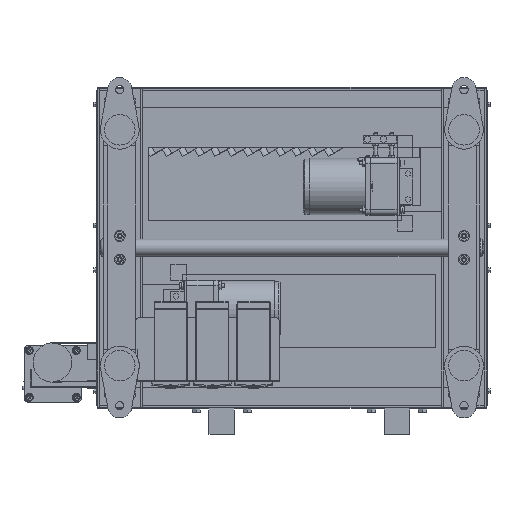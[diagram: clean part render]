
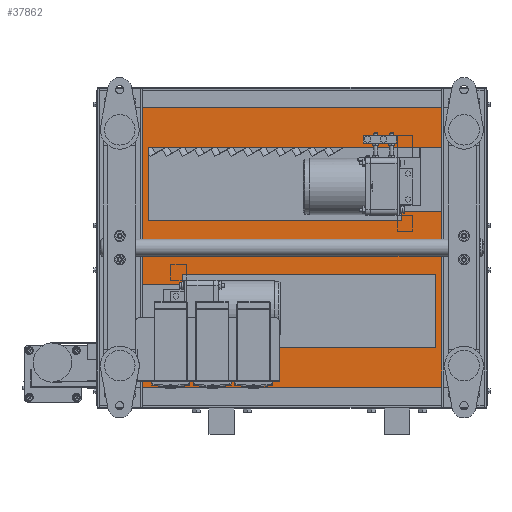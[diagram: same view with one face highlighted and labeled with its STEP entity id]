
A CAD part, front view. The second image highlights one B-rep face of the part: STEP entity #37862.
In plain terms, the highlighted planar face has unit normal (0, -1, 0).
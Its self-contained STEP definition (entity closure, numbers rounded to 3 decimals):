
#831 = LINE ( 'NONE', #35868, #47979 ) ;
#1174 = DIRECTION ( 'NONE',  ( 0., 0., 1. ) ) ;
#1207 = CARTESIAN_POINT ( 'NONE',  ( 477., -93., 57. ) ) ;
#1608 = ORIENTED_EDGE ( 'NONE', *, *, #58721, .F. ) ;
#1649 = EDGE_CURVE ( 'NONE', #6110, #20257, #58452, .T. ) ;
#1741 = AXIS2_PLACEMENT_3D ( 'NONE', #32501, #37066, #9739 ) ;
#2122 = VECTOR ( 'NONE', #9019, 1000. ) ;
#2157 = ORIENTED_EDGE ( 'NONE', *, *, #46309, .F. ) ;
#3023 = EDGE_CURVE ( 'NONE', #27700, #33839, #831, .T. ) ;
#3618 = LINE ( 'NONE', #33622, #30767 ) ;
#4186 = LINE ( 'NONE', #10161, #49830 ) ;
#4253 = VERTEX_POINT ( 'NONE', #13614 ) ;
#4399 = EDGE_LOOP ( 'NONE', ( #2157, #15512, #30278, #30880 ) ) ;
#4470 = VECTOR ( 'NONE', #56844, 1000. ) ;
#6110 = VERTEX_POINT ( 'NONE', #58177 ) ;
#6867 = VERTEX_POINT ( 'NONE', #45966 ) ;
#7122 = VERTEX_POINT ( 'NONE', #56866 ) ;
#7992 = CARTESIAN_POINT ( 'NONE',  ( 133., -93., -57. ) ) ;
#8729 = DIRECTION ( 'NONE',  ( 0., 0., -1. ) ) ;
#9019 = DIRECTION ( 'NONE',  ( 1., 0., 0. ) ) ;
#9071 = LINE ( 'NONE', #55270, #53998 ) ;
#9393 = DIRECTION ( 'NONE',  ( -1., 0., 0. ) ) ;
#9722 = VERTEX_POINT ( 'NONE', #46854 ) ;
#9739 = DIRECTION ( 'NONE',  ( -1., 0., 0. ) ) ;
#10161 = CARTESIAN_POINT ( 'NONE',  ( 610., -93., -247. ) ) ;
#10493 = DIRECTION ( 'NONE',  ( 0., 0., -1. ) ) ;
#10721 = VECTOR ( 'NONE', #27001, 1000. ) ;
#12866 = EDGE_CURVE ( 'NONE', #33839, #29434, #57983, .T. ) ;
#13320 = CARTESIAN_POINT ( 'NONE',  ( 40., -93., -157. ) ) ;
#13595 = EDGE_CURVE ( 'NONE', #24409, #27700, #54106, .T. ) ;
#13614 = CARTESIAN_POINT ( 'NONE',  ( 40., -93., -57. ) ) ;
#13970 = PLANE ( 'NONE',  #1741 ) ;
#14320 = LINE ( 'NONE', #53959, #52857 ) ;
#14390 = LINE ( 'NONE', #23967, #23645 ) ;
#14702 = ORIENTED_EDGE ( 'NONE', *, *, #56792, .F. ) ;
#15170 = CARTESIAN_POINT ( 'NONE',  ( 80., -93., 42. ) ) ;
#15247 = LINE ( 'NONE', #30080, #21009 ) ;
#15512 = ORIENTED_EDGE ( 'NONE', *, *, #41262, .T. ) ;
#16609 = CARTESIAN_POINT ( 'NONE',  ( 530., -93., -42. ) ) ;
#17060 = VECTOR ( 'NONE', #8729, 1000. ) ;
#17929 = DIRECTION ( 'NONE',  ( 0., 0., 1. ) ) ;
#19173 = EDGE_CURVE ( 'NONE', #36085, #4253, #28787, .T. ) ;
#19509 = VERTEX_POINT ( 'NONE', #41269 ) ;
#20257 = VERTEX_POINT ( 'NONE', #38268 ) ;
#20439 = LINE ( 'NONE', #7992, #41757 ) ;
#21009 = VECTOR ( 'NONE', #24715, 1000. ) ;
#21021 = FACE_BOUND ( 'NONE', #49935, .T. ) ;
#22625 = EDGE_CURVE ( 'NONE', #29434, #6110, #30897, .T. ) ;
#22777 = CARTESIAN_POINT ( 'NONE',  ( 80., -93., 42. ) ) ;
#23543 = ORIENTED_EDGE ( 'NONE', *, *, #19173, .F. ) ;
#23645 = VECTOR ( 'NONE', #1174, 1000. ) ;
#23967 = CARTESIAN_POINT ( 'NONE',  ( 530., -93., -157. ) ) ;
#24409 = VERTEX_POINT ( 'NONE', #1207 ) ;
#24676 = VERTEX_POINT ( 'NONE', #46928 ) ;
#24715 = DIRECTION ( 'NONE',  ( 0., 0., 1. ) ) ;
#25664 = CARTESIAN_POINT ( 'NONE',  ( 133., -93., -57. ) ) ;
#25863 = ORIENTED_EDGE ( 'NONE', *, *, #3023, .F. ) ;
#25947 = VECTOR ( 'NONE', #46802, 1000. ) ;
#25979 = VECTOR ( 'NONE', #9393, 1000. ) ;
#26328 = CARTESIAN_POINT ( 'NONE',  ( 570., -93., 157. ) ) ;
#27001 = DIRECTION ( 'NONE',  ( 1., 0., 0. ) ) ;
#27613 = EDGE_CURVE ( 'NONE', #29403, #7122, #9071, .T. ) ;
#27700 = VERTEX_POINT ( 'NONE', #43181 ) ;
#27793 = LINE ( 'NONE', #49658, #10721 ) ;
#27917 = VERTEX_POINT ( 'NONE', #53681 ) ;
#28787 = LINE ( 'NONE', #38205, #4470 ) ;
#29403 = VERTEX_POINT ( 'NONE', #16609 ) ;
#29434 = VERTEX_POINT ( 'NONE', #58213 ) ;
#30080 = CARTESIAN_POINT ( 'NONE',  ( 477., -93., 57. ) ) ;
#30198 = ORIENTED_EDGE ( 'NONE', *, *, #49322, .F. ) ;
#30278 = ORIENTED_EDGE ( 'NONE', *, *, #33231, .T. ) ;
#30767 = VECTOR ( 'NONE', #10493, 1000. ) ;
#30880 = ORIENTED_EDGE ( 'NONE', *, *, #41540, .T. ) ;
#30897 = LINE ( 'NONE', #15170, #25947 ) ;
#31138 = DIRECTION ( 'NONE',  ( 0., 0., -1. ) ) ;
#32501 = CARTESIAN_POINT ( 'NONE',  ( 610., -93., 500000. ) ) ;
#32645 = ORIENTED_EDGE ( 'NONE', *, *, #22625, .F. ) ;
#33231 = EDGE_CURVE ( 'NONE', #9722, #50779, #3618, .T. ) ;
#33482 = DIRECTION ( 'NONE',  ( 1., 0., 0. ) ) ;
#33622 = CARTESIAN_POINT ( 'NONE',  ( 3., -93., 500000. ) ) ;
#33839 = VERTEX_POINT ( 'NONE', #26328 ) ;
#35868 = CARTESIAN_POINT ( 'NONE',  ( 570., -93., 57. ) ) ;
#36085 = VERTEX_POINT ( 'NONE', #25664 ) ;
#36637 = DIRECTION ( 'NONE',  ( 1., 0., 0. ) ) ;
#36727 = CARTESIAN_POINT ( 'NONE',  ( 80., -93., 157. ) ) ;
#37066 = DIRECTION ( 'NONE',  ( 0., 1., 0. ) ) ;
#37859 = VECTOR ( 'NONE', #43938, 1000. ) ;
#37862 = ADVANCED_FACE ( 'NONE', ( #21021, #38874, #40913 ), #13970, .F. ) ;
#38205 = CARTESIAN_POINT ( 'NONE',  ( 40., -93., -57. ) ) ;
#38268 = CARTESIAN_POINT ( 'NONE',  ( 477., -93., 42. ) ) ;
#38874 = FACE_BOUND ( 'NONE', #52610, .T. ) ;
#40913 = FACE_OUTER_BOUND ( 'NONE', #4399, .T. ) ;
#41262 = EDGE_CURVE ( 'NONE', #24676, #9722, #49934, .T. ) ;
#41269 = CARTESIAN_POINT ( 'NONE',  ( 530., -93., -157. ) ) ;
#41280 = ORIENTED_EDGE ( 'NONE', *, *, #44208, .F. ) ;
#41308 = VECTOR ( 'NONE', #36637, 1000. ) ;
#41540 = EDGE_CURVE ( 'NONE', #50779, #6867, #4186, .T. ) ;
#41757 = VECTOR ( 'NONE', #31138, 1000. ) ;
#42705 = EDGE_CURVE ( 'NONE', #7122, #36085, #20439, .T. ) ;
#43181 = CARTESIAN_POINT ( 'NONE',  ( 570., -93., 57. ) ) ;
#43430 = ORIENTED_EDGE ( 'NONE', *, *, #27613, .F. ) ;
#43527 = CARTESIAN_POINT ( 'NONE',  ( 610., -93., 247. ) ) ;
#43938 = DIRECTION ( 'NONE',  ( -1., 0., 0. ) ) ;
#44126 = ORIENTED_EDGE ( 'NONE', *, *, #1649, .F. ) ;
#44208 = EDGE_CURVE ( 'NONE', #19509, #29403, #14390, .T. ) ;
#45966 = CARTESIAN_POINT ( 'NONE',  ( 607., -93., -247. ) ) ;
#46309 = EDGE_CURVE ( 'NONE', #24676, #6867, #14320, .T. ) ;
#46534 = DIRECTION ( 'NONE',  ( -1., 0., 0. ) ) ;
#46802 = DIRECTION ( 'NONE',  ( 0., 0., -1. ) ) ;
#46854 = CARTESIAN_POINT ( 'NONE',  ( 3., -93., 247. ) ) ;
#46928 = CARTESIAN_POINT ( 'NONE',  ( 607., -93., 247. ) ) ;
#47979 = VECTOR ( 'NONE', #17929, 1000. ) ;
#48155 = ORIENTED_EDGE ( 'NONE', *, *, #42705, .F. ) ;
#49322 = EDGE_CURVE ( 'NONE', #27917, #19509, #27793, .T. ) ;
#49658 = CARTESIAN_POINT ( 'NONE',  ( 530., -93., -157. ) ) ;
#49830 = VECTOR ( 'NONE', #33482, 1000. ) ;
#49934 = LINE ( 'NONE', #43527, #37859 ) ;
#49935 = EDGE_LOOP ( 'NONE', ( #1608, #44126, #32645, #51644, #25863, #52694 ) ) ;
#50159 = DIRECTION ( 'NONE',  ( 0., 0., -1. ) ) ;
#50298 = CARTESIAN_POINT ( 'NONE',  ( 3., -93., -247. ) ) ;
#50779 = VERTEX_POINT ( 'NONE', #50298 ) ;
#51281 = LINE ( 'NONE', #13320, #17060 ) ;
#51644 = ORIENTED_EDGE ( 'NONE', *, *, #12866, .F. ) ;
#52610 = EDGE_LOOP ( 'NONE', ( #48155, #43430, #41280, #30198, #14702, #23543 ) ) ;
#52694 = ORIENTED_EDGE ( 'NONE', *, *, #13595, .F. ) ;
#52857 = VECTOR ( 'NONE', #50159, 1000. ) ;
#53681 = CARTESIAN_POINT ( 'NONE',  ( 40., -93., -157. ) ) ;
#53959 = CARTESIAN_POINT ( 'NONE',  ( 607., -93., 500000. ) ) ;
#53998 = VECTOR ( 'NONE', #46534, 1000. ) ;
#54106 = LINE ( 'NONE', #59090, #41308 ) ;
#55270 = CARTESIAN_POINT ( 'NONE',  ( 530., -93., -42. ) ) ;
#56792 = EDGE_CURVE ( 'NONE', #4253, #27917, #51281, .T. ) ;
#56844 = DIRECTION ( 'NONE',  ( -1., 0., 0. ) ) ;
#56866 = CARTESIAN_POINT ( 'NONE',  ( 133., -93., -42. ) ) ;
#57983 = LINE ( 'NONE', #36727, #25979 ) ;
#58177 = CARTESIAN_POINT ( 'NONE',  ( 80., -93., 42. ) ) ;
#58213 = CARTESIAN_POINT ( 'NONE',  ( 80., -93., 157. ) ) ;
#58452 = LINE ( 'NONE', #22777, #2122 ) ;
#58721 = EDGE_CURVE ( 'NONE', #20257, #24409, #15247, .T. ) ;
#59090 = CARTESIAN_POINT ( 'NONE',  ( 570., -93., 57. ) ) ;
